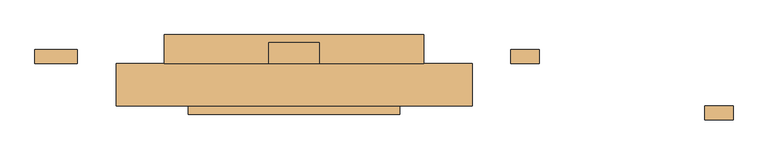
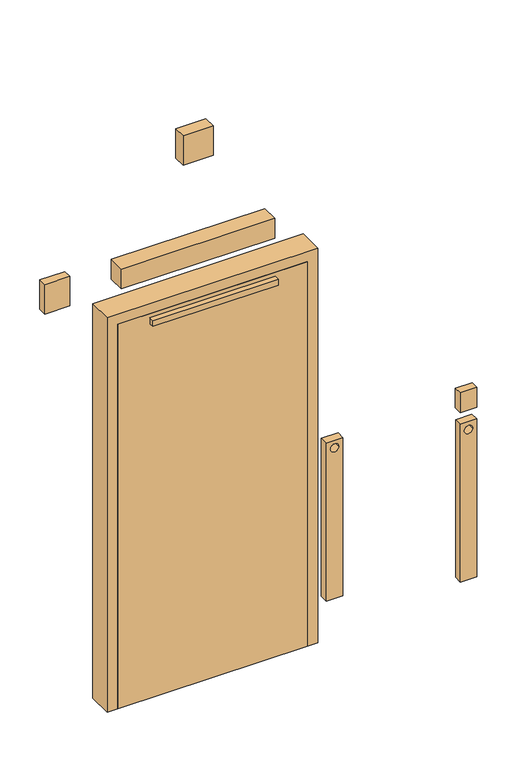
"""IFC4 building model written with IfcOpenShell, lengths in millimetres: door geometry, LOC_Enkeldörr : LOC_Enkeldörr."""

from ifc_helpers import new_model, si_unit, point, frame, frame_2d, origin, origin_with_axes, place, context, project, spatial, polyline, circle_curve, trimmed, segment, composite_curve, outline, extrude, source, transform, mapped, element, save


def door_4ac7e3a7(model_context):
    return source(origin(), model_context, "Body", "SweptSolid", [
        extrude(outline(polyline([(300.0, 3.9461432), (300.0, -20.0), (-300.0, -20.0), (-300.0, 3.9461432), (300.0, 3.9461432)])), frame((0.0, 0.0, 1900.0), z_axis=(0.0, 0.0, 1.0), x_axis=(1.0, 0.0, 0.0)), (0.0, 0.0, 1.0), 30.0),
        extrude(outline(polyline([(300.0, -60.0), (300.0, -84.7279155), (-300.0, -84.7279155), (-300.0, -60.0), (300.0, -60.0)])), frame((0.0, 0.0, 1900.0), z_axis=(0.0, 0.0, 1.0), x_axis=(1.0, 0.0, 0.0)), (0.0, 0.0, 1.0), 30.0),
        extrude(outline(polyline([(455.0, -60.0), (-455.0, -60.0), (-455.0, -20.0), (455.0, -20.0), (455.0, -60.0)])), origin_with_axes(), (0.0, 0.0, 1.0), 1950.0),
        extrude(outline(polyline([(71.850514, 119.024496), (71.850514, 60.0), (-71.850514, 60.0), (-71.850514, 119.024496), (71.850514, 119.024496)])), frame((0.0, 0.0, 2550.0), z_axis=(0.0, 0.0, 1.0), x_axis=(1.0, 0.0, 0.0)), (0.0, 0.0, 1.0), 150.0),
        extrude(outline(polyline([(-615.0, 100.0), (-615.0, 60.0), (-735.0, 60.0), (-735.0, 100.0), (-615.0, 100.0)])), frame((0.0, 0.0, 2026.8339397), z_axis=(0.0, 0.0, 1.0), x_axis=(1.0, 0.0, 0.0)), (0.0, 0.0, 1.0), 150.0),
        extrude(outline(polyline([(900.0, 695.0), (900.0, 615.0), (100.0, 615.0), (100.0, 695.0), (900.0, 695.0)]), holes=[composite_curve([segment(trimmed(circle_curve(frame_2d((862.8880859, 655.0)), 20.0), [point((862.8880859, 635.0))], [point((862.8880859, 675.0))], True, "CARTESIAN"), True, "CONTINUOUS"), segment(trimmed(circle_curve(frame_2d((862.8880859, 655.0)), 20.0), [point((862.8880859, 675.0))], [point((862.8880859, 635.0))], True, "CARTESIAN"), True, "CONTINUOUS")], self_intersect=False)]), frame((0.0, 60.0, 0.0), z_axis=(0.0, 1.0, 0.0), x_axis=(0.0, 0.0, 1.0)), (0.0, 0.0, 1.0), 40.0),
        extrude(outline(polyline([(367.845119, 141.7641566), (367.845119, 60.0), (-367.845119, 60.0), (-367.845119, 141.7641566), (367.845119, 141.7641566)])), frame((0.0, 0.0, 2026.8339397), z_axis=(0.0, 0.0, 1.0), x_axis=(1.0, 0.0, 0.0)), (0.0, 0.0, 1.0), 100.0),
        extrude(outline(polyline([(900.0, 1165.5145815), (100.0, 1165.5145815), (100.0, 1244.4854185), (900.0, 1244.4854185), (900.0, 1165.5145815)]), holes=[composite_curve([segment(trimmed(circle_curve(frame_2d((860.0, 1205.0)), 20.0), [point((860.0, 1185.0))], [point((860.0, 1225.0))], True, "CARTESIAN"), True, "CONTINUOUS"), segment(trimmed(circle_curve(frame_2d((860.0, 1205.0)), 20.0), [point((860.0, 1225.0))], [point((860.0, 1185.0))], True, "CARTESIAN"), True, "CONTINUOUS")], self_intersect=False)]), frame((0.0, -99.7931161, 0.0), z_axis=(0.0, 1.0, 0.0), x_axis=(0.0, 0.0, 1.0)), (0.0, 0.0, 1.0), 39.7931161),
        extrude(outline(polyline([(1245.0, -60.0), (1245.0, -99.7931161), (1165.0, -99.7931161), (1165.0, -60.0), (1245.0, -60.0)])), frame((0.0, 0.0, 960.0040929), z_axis=(0.0, 0.0, 1.0), x_axis=(1.0, 0.0, 0.0)), (0.0, 0.0, 1.0), 100.0),
        extrude(outline(polyline([(2000.0, 505.0), (2000.0, -505.0), (0.0, -505.0), (0.0, -455.0), (1950.0, -455.0), (1950.0, 455.0), (0.0, 455.0), (0.0, 505.0), (2000.0, 505.0)])), frame((0.0, -60.0, 0.0), z_axis=(0.0, 1.0, 0.0), x_axis=(0.0, 0.0, 1.0)), (0.0, 0.0, 1.0), 120.0),
    ])


if __name__ == "__main__":
    model = new_model("IFC4")
    model_context = context("Model", 3, world=origin())
    ifc_project = project(units=[si_unit("LENGTHUNIT", "METRE", prefix="MILLI")], contexts=[model_context])
    site = spatial("IfcSite", under=ifc_project)
    building = spatial("IfcBuilding", under=site)
    placement = place(None, origin())
    door_shape = door_4ac7e3a7(model_context)
    element("IfcDoor", 1, ObjectType="LOC_Enkeldörr : LOC_Enkeldörr", at=placement, inside=building, context=model_context, shape_type="MappedRepresentation", body=[
        mapped(door_shape, transform((0.0, 0.0, 0.0), x_axis=(1.0, 0.0, 0.0), y_axis=(0.0, 1.0, 0.0), z_axis=(0.0, 0.0, 1.0))),
    ])
    save(model, "model.ifc")
